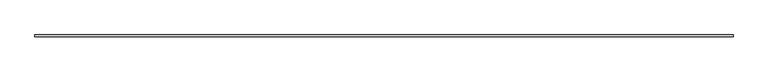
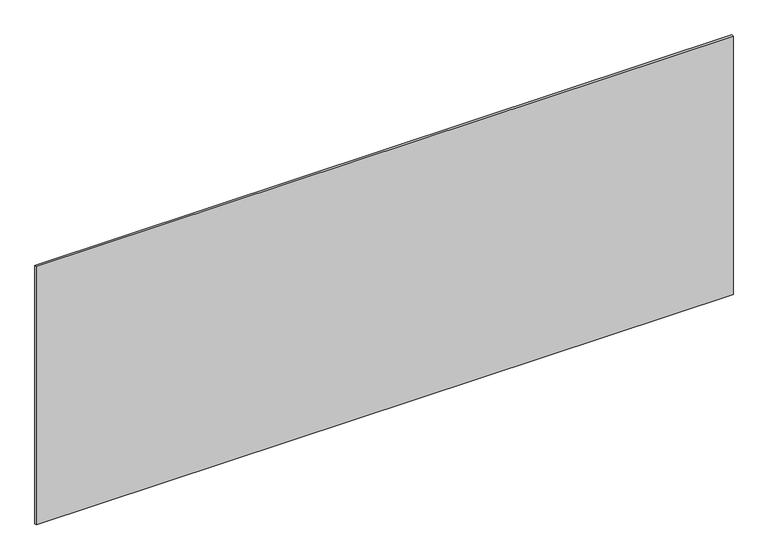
"""IFC4 building model written with IfcOpenShell, lengths in millimetres: plate geometry, システム パネル : 標準."""

from ifc_helpers import new_model, si_unit, origin, origin_with_axes, place, context, project, spatial, polyline, outline, extrude, source, transform, mapped, element, save


def plate_12c708f2(model_context):
    return source(origin(), model_context, "Body", "SweptSolid", [
        extrude(outline(polyline([(1715.0, -5.0), (-1715.0, -5.0), (-1715.0, 5.0), (1715.0, 5.0), (1715.0, -5.0)])), origin_with_axes(), (0.0, 0.0, 1.0), 1345.016358),
    ])


if __name__ == "__main__":
    model = new_model("IFC4")
    model_context = context("Model", 3, world=origin())
    ifc_project = project(units=[si_unit("LENGTHUNIT", "METRE", prefix="MILLI")], contexts=[model_context])
    site = spatial("IfcSite", under=ifc_project)
    building = spatial("IfcBuilding", under=site)
    placement = place(None, origin())
    plate_shape = plate_12c708f2(model_context)
    element("IfcPlate", 1, ObjectType="システム パネル : 標準", at=placement, inside=building, context=model_context, shape_type="MappedRepresentation", body=[
        mapped(plate_shape, transform((0.0, 0.0, 0.0), x_axis=(1.0, 0.0, 0.0), y_axis=(0.0, 1.0, 0.0), z_axis=(0.0, 0.0, 1.0))),
    ])
    save(model, "model.ifc")
